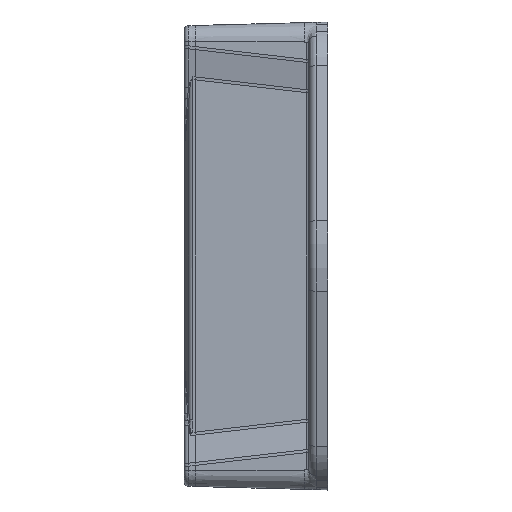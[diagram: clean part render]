
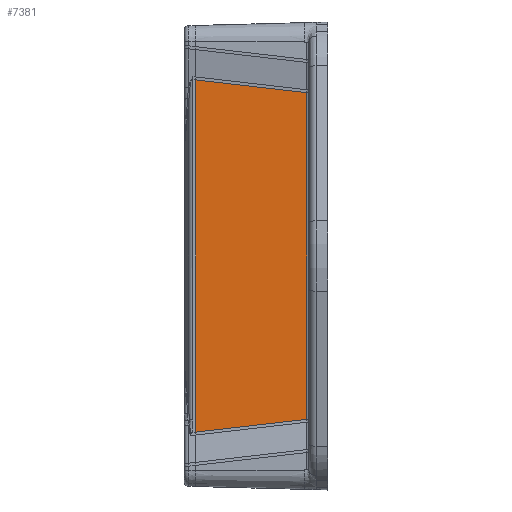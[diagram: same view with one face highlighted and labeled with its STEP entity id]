
A CAD part, left-side view. The second image highlights one B-rep face of the part: STEP entity #7381.
In plain terms, the highlighted planar face has unit normal (-1, 0.026, 0).
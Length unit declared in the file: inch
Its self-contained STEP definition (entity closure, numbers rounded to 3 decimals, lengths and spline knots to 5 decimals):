
#803 = EDGE_LOOP ( 'NONE', ( #23833, #23834, #23835, #23836 ) ) ;
#5847 = AXIS2_PLACEMENT_3D ( 'NONE', #21076, #21068, #21067 ) ;
#7381 = ADVANCED_FACE ( 'NONE', ( #7904 ), #21080, .T. ) ;
#7904 = FACE_OUTER_BOUND ( 'NONE', #803, .T. ) ;
#11983 = CARTESIAN_POINT ( 'NONE',  ( -1.525, 0., 1.16517 ) ) ;
#12019 = CARTESIAN_POINT ( 'NONE',  ( -1.54424, -0.73478, 1.0805 ) ) ;
#12075 = CARTESIAN_POINT ( 'NONE',  ( -1.525, 0., -1.16517 ) ) ;
#12190 = CARTESIAN_POINT ( 'NONE',  ( -1.54424, -0.73478, -1.0805 ) ) ;
#12903 = VERTEX_POINT ( 'NONE', #11983 ) ;
#12921 = VERTEX_POINT ( 'NONE', #12019 ) ;
#12961 = VERTEX_POINT ( 'NONE', #12075 ) ;
#13076 = VERTEX_POINT ( 'NONE', #12190 ) ;
#17263 = LINE ( 'NONE', #18644, #17273 ) ;
#17273 = VECTOR ( 'NONE', #18647, 39.37008 ) ;
#17441 = LINE ( 'NONE', #19116, #17447 ) ;
#17447 = VECTOR ( 'NONE', #19117, 39.37008 ) ;
#17496 = LINE ( 'NONE', #19847, #17512 ) ;
#17509 = LINE ( 'NONE', #19830, #17511 ) ;
#17511 = VECTOR ( 'NONE', #19831, 39.37008 ) ;
#17512 = VECTOR ( 'NONE', #19848, 39.37008 ) ;
#18644 = CARTESIAN_POINT ( 'NONE',  ( -1.525, 0., -1.175 ) ) ;
#18647 = DIRECTION ( 'NONE',  ( 0., 0., 1. ) ) ;
#19116 = CARTESIAN_POINT ( 'NONE',  ( -1.52497, 0.00112, 1.1653 ) ) ;
#19117 = DIRECTION ( 'NONE',  ( 0.026, 0.993, 0.114 ) ) ;
#19830 = CARTESIAN_POINT ( 'NONE',  ( -1.54424, -0.73478, -1.175 ) ) ;
#19831 = DIRECTION ( 'NONE',  ( 0., 0., 1. ) ) ;
#19847 = CARTESIAN_POINT ( 'NONE',  ( -1.54461, -0.74888, -1.07888 ) ) ;
#19848 = DIRECTION ( 'NONE',  ( -0.026, -0.993, 0.114 ) ) ;
#21067 = DIRECTION ( 'NONE',  ( -0.026, -1., 0. ) ) ;
#21068 = DIRECTION ( 'NONE',  ( -1., 0.026, 0. ) ) ;
#21076 = CARTESIAN_POINT ( 'NONE',  ( -1.525, 0., -1.175 ) ) ;
#21080 = PLANE ( 'NONE',  #5847 ) ;
#23833 = ORIENTED_EDGE ( 'NONE', *, *, #31306, .T. ) ;
#23834 = ORIENTED_EDGE ( 'NONE', *, *, #31297, .T. ) ;
#23835 = ORIENTED_EDGE ( 'NONE', *, *, #31243, .T. ) ;
#23836 = ORIENTED_EDGE ( 'NONE', *, *, #31078, .F. ) ;
#31078 = EDGE_CURVE ( 'NONE', #12961, #12903, #17263, .T. ) ;
#31243 = EDGE_CURVE ( 'NONE', #12921, #12903, #17441, .T. ) ;
#31297 = EDGE_CURVE ( 'NONE', #13076, #12921, #17509, .T. ) ;
#31306 = EDGE_CURVE ( 'NONE', #12961, #13076, #17496, .T. ) ;
